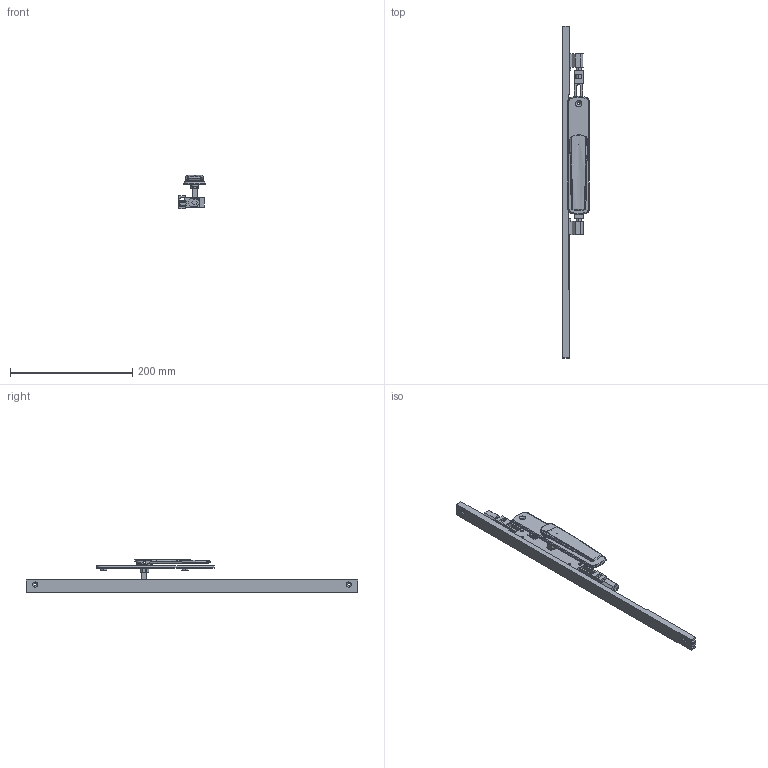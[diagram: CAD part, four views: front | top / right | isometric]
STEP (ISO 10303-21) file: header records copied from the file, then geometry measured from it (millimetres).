
FILE_DESCRIPTION (( 'STEP AP214' ), '1' );
FILE_NAME ('TPL-W-APC-604-L 28Oct2024.STEP', '2024-10-28T03:15:41', ( '' ), ( '' ), 'SwSTEP 2.0', 'SolidWorks 2023', '' );
FILE_SCHEMA (( 'AUTOMOTIVE_DESIGN' ));
Length unit declared in the file: millimetre
Products named in the file (18): Copy of LKC-586 Spindle square 8mm with M4 hole^Copy of TPGen2 handle non-keyed short zinc - simplified_TPL-W-APC-104 18Oct2024_37mm; Copy of LKC-505 Swing handle zinc - simplified^Copy of TPGen2 handle non-keyed short zinc - simplified_TPL-W-APC-104 18Oct2024; Copy of TPGen2 handle non-keyed short zinc - simplified^TPL-W-APC-104 18Oct2024_Vertical; Copy of TPLGen2 lock body non-keyed assembly^TPL-W-APC-104 18Oct2024_Bolts extended; Copy of COV-115-C Cover C suit TPLGen2 standard range AU^TPL-W-APC-104 18Oct2024; Copy of TPLGen2 push rod - simplified^Copy of TPLGen2 lock body non-keyed assembly_TPL-W-APC-104 18Oct2024_Female thread M10; Bottom twinpoint transmission rod wood system^TPL-W-APC-104 18Oct2024_Standard Range 2891.7mm; Adapter D - simplfied^TPL-W-APC-104 18Oct2024; Copy of LKC-516 Escutcheon plate unkeyed 195mm long zinc - simplified^Copy of TPGen2 handle non-keyed short zinc - simplified_TPL-W-APC-104 18Oct2024; Copy of LKC-585 Rotator body zinc^Copy of TPGen2 handle non-keyed short zinc - simplified_TPL-W-APC-104 18Oct2024; Adapter C - simplfied^TPL-W-APC-104 18Oct2024; Copy of LKC-531-A Rod TPLGen2 machined bolt end^TPL-W-APC-104 18Oct2024_LKC-531-A-M003; Bolt.step; TPL-W-APC-604-L 28Oct2024; Copy of COV-115-A Cover A suit TPLGen2 standard range AU with hinge holes^TPL-W-APC-104 18Oct2024_2870mm; Copy of TPLGen2 lock body non-keyed^Copy of TPLGen2 lock body non-keyed assembly_TPL-W-APC-104 18Oct2024; Copy of COV-115-B Cover B suit TPLGen2 standard range AU with hinge holes^TPL-W-APC-104 18Oct2024_2870mm; Copy of LKC-584 Pivot body zinc - simplified^Copy of TPGen2 handle non-keyed short zinc - simplified_TPL-W-APC-104 18Oct2024
Assembly tree (15 placements, depth 3):
  Bolt.step
  TPL-W-APC-604-L 28Oct2024
    Copy of TPLGen2 lock body non-keyed assembly^TPL-W-APC-104 18Oct2024_Bolts extended
      Copy of TPLGen2 lock body non-keyed^Copy of TPLGen2 lock body non-keyed assembly_TPL-W-APC-104 18Oct2024
      Copy of TPLGen2 push rod - simplified^Copy of TPLGen2 lock body non-keyed assembly_TPL-W-APC-104 18Oct2024_Female thread M10  x2
    Copy of TPGen2 handle non-keyed short zinc - simplified^TPL-W-APC-104 18Oct2024_Vertical
      Copy of LKC-516 Escutcheon plate unkeyed 195mm long zinc - simplified^Copy of TPGen2 handle non-keyed short zinc - simplified_TPL-W-APC-104 18Oct2024
      Copy of LKC-505 Swing handle zinc - simplified^Copy of TPGen2 handle non-keyed short zinc - simplified_TPL-W-APC-104 18Oct2024
      Copy of LKC-585 Rotator body zinc^Copy of TPGen2 handle non-keyed short zinc - simplified_TPL-W-APC-104 18Oct2024
      Copy of LKC-586 Spindle square 8mm with M4 hole^Copy of TPGen2 handle non-keyed short zinc - simplified_TPL-W-APC-104 18Oct2024_37mm
      Copy of LKC-584 Pivot body zinc - simplified^Copy of TPGen2 handle non-keyed short zinc - simplified_TPL-W-APC-104 18Oct2024
    Copy of COV-115-C Cover C suit TPLGen2 standard range AU^TPL-W-APC-104 18Oct2024
    Bottom twinpoint transmission rod wood system^TPL-W-APC-104 18Oct2024_Standard Range 2891.7mm
    Copy of LKC-531-A Rod TPLGen2 machined bolt end^TPL-W-APC-104 18Oct2024_LKC-531-A-M003
    Adapter D - simplfied^TPL-W-APC-104 18Oct2024
    Adapter C - simplfied^TPL-W-APC-104 18Oct2024
  Copy of COV-115-A Cover A suit TPLGen2 standard range AU with hinge holes^TPL-W-APC-104 18Oct2024_2870mm
  Copy of COV-115-B Cover B suit TPLGen2 standard range AU with hinge holes^TPL-W-APC-104 18Oct2024_2870mm
Bounding box: 43.5 x 544 x 55.06 mm (x, y, z)
Volume: 201358.8 mm3; surface area: 112823.7 mm2
Topology: 13 solids, 13 shells, 849 faces, 2094 edges, 1300 vertices
Faces by surface type: plane 306, bspline 241, cylinder 182, cone 66, torus 46, sphere 8
Entity records: 30613 total; most frequent: CARTESIAN_POINT 12551, ORIENTED_EDGE 3996, DIRECTION 3180, EDGE_CURVE 1998, VERTEX_POINT 1240, AXIS2_PLACEMENT_3D 1147, EDGE_LOOP 896, LINE 886
